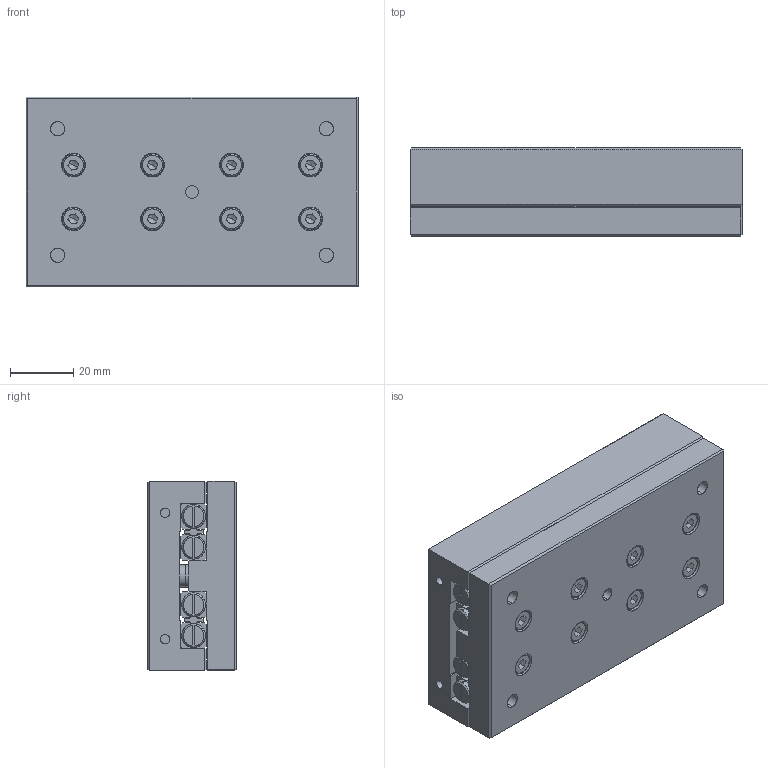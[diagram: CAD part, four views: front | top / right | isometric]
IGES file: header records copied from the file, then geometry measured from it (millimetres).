
Start section: SolidWorks IGES file using analytic representation for surfaces
Global section: file name: C:\Documents and Settings\IanO.IANOHOME\My Documents\Wix and Auto CAD Work\CAD Models\Parametric Models\Auto Models\L1020\L1020_IGES\L1020.060-105.igs; native system: SolidWorks 2009; preprocessor: SolidWorks 2009; author: IanO; date: 110922.162624; units: millimetre
Bounding box: 105 x 28 x 60 mm (x, y, z)
Surface area: 65753.3 mm2 (no closed solid volume)
Topology: 0 solids, 0 shells, 1316 faces, 17568 edges, 17528 vertices
Faces by surface type: bspline 836, revolution 480
